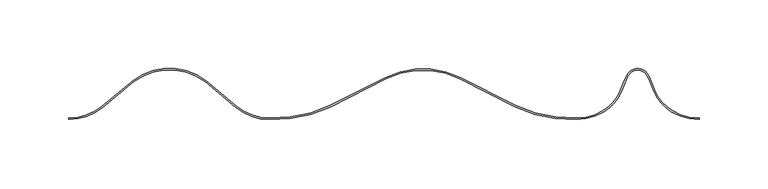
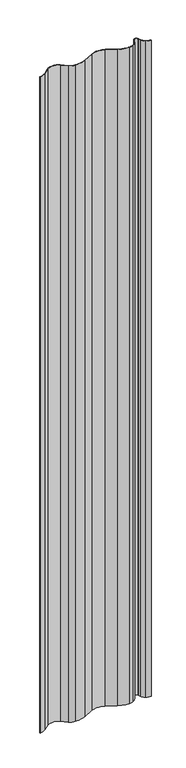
"""IFC4 building model written with IfcOpenShell, lengths in millimetres: plate geometry, Ritmica Vertical 457 : Ritmica Vertical 457."""

import ifcopenshell
import ifcopenshell.guid

model = None  # the IFC model being written
_history = None  # IfcOwnerHistory: only IFC2X3 demands one
_inside = {}  # id of a spatial element -> (the spatial element, [elements in it])
_under = {}  # id of a project, library or spatial element -> (it, [spatial elements below it])
_declared = {}  # id of a project -> (the project, [libraries it declares])
_typed = {}  # id of a type object -> (the type object, [elements of that type])
_made_of = {}  # id of a material, layer set ... -> (it, [elements and type objects made of it])


def new_model(schema):
    """Start an empty IFC model of exactly this schema.

    Asked for "IFC4X3", IfcOpenShell would pick the latest addendum, in which some entities
    have other attributes; the version numbers below select the first issue.
    IFC2X3 requires an IfcOwnerHistory on every rooted entity: one is made here for all.
    """
    global model, _history
    if schema == "IFC4X3":
        model = ifcopenshell.file(schema_version=(4, 3, 0, 0))
    else:
        model = ifcopenshell.file(schema=schema)
    _inside.clear()
    _under.clear()
    _declared.clear()
    _typed.clear()
    _made_of.clear()
    _history = None
    if model.schema == "IFC2X3":
        org = make("IfcOrganization", Name="unknown")
        user = make(
            "IfcPersonAndOrganization",
            ThePerson=make("IfcPerson", FamilyName="unknown"),
            TheOrganization=org,
        )
        app = make(
            "IfcApplication",
            ApplicationDeveloper=org,
            Version="unknown",
            ApplicationFullName="unknown",
            ApplicationIdentifier="unknown",
        )
        _history = make(
            "IfcOwnerHistory",
            OwningUser=user,
            OwningApplication=app,
            ChangeAction="ADDED",
            CreationDate=0,
        )
    return model


def make(cls, **values):
    """One entity of the class cls with the attributes given. An attribute that is None is left unset."""
    return model.create_entity(
        cls, **{name: value for name, value in values.items() if value is not None}
    )


def rooted(cls, **values):
    """An entity with a GlobalId (a new one), such as an element, a storey or a relation."""
    return make(cls, GlobalId=ifcopenshell.guid.new(), OwnerHistory=_history, **values)


def si_unit(unit_type, name, prefix=None):
    """IfcSIUnit, for example si_unit("LENGTHUNIT", "METRE", prefix="MILLI")."""
    return make("IfcSIUnit", UnitType=unit_type, Prefix=prefix, Name=name)


def assignment(units):
    """IfcUnitAssignment: the units of a project."""
    return None if units is None else make("IfcUnitAssignment", Units=units)


def point(xyz):
    """IfcCartesianPoint."""
    return None if xyz is None else make("IfcCartesianPoint", Coordinates=xyz)


def direction(xyz):
    """IfcDirection."""
    return None if xyz is None else make("IfcDirection", DirectionRatios=xyz)


def frame(location, z_axis=None, x_axis=None):
    """IfcAxis2Placement3D, a coordinate frame: its origin and axes. An axis left out is left unset."""
    return make(
        "IfcAxis2Placement3D",
        Location=point(location),
        Axis=direction(z_axis),
        RefDirection=direction(x_axis),
    )


def frame_2d(location, x_axis=None):
    """IfcAxis2Placement2D, a coordinate frame in the plane: its origin and x axis."""
    return make(
        "IfcAxis2Placement2D", Location=point(location), RefDirection=direction(x_axis)
    )


def origin():
    """The frame at (0, 0, 0) with its axes left unset."""
    return frame((0.0, 0.0, 0.0))


def origin_with_axes():
    """The frame at (0, 0, 0) with the z axis (0, 0, 1) and the x axis (1, 0, 0) written out."""
    return frame((0.0, 0.0, 0.0), z_axis=(0.0, 0.0, 1.0), x_axis=(1.0, 0.0, 0.0))


def place(relative_to, where):
    """IfcLocalPlacement: puts the frame where relative to a parent placement (None: the world)."""
    return make(
        "IfcLocalPlacement", PlacementRelTo=relative_to, RelativePlacement=where
    )


def context(
    kind, dimensions, precision=None, world=None, true_north=None, identifier=None
):
    """IfcGeometricRepresentationContext, for example the 3D "Model" context."""
    return make(
        "IfcGeometricRepresentationContext",
        ContextIdentifier=identifier,
        ContextType=kind,
        CoordinateSpaceDimension=dimensions,
        Precision=precision,
        WorldCoordinateSystem=world,
        TrueNorth=true_north,
    )


def project(units=None, contexts=None):
    """IfcProject with its units and contexts."""
    return rooted(
        "IfcProject",
        Name="project",
        RepresentationContexts=contexts,
        UnitsInContext=assignment(units),
    )


def spatial(cls, under=None, at=None, **own):
    """A site, building, storey or space (cls), placed at a placement, below another one or the project."""
    s = rooted(cls, ObjectPlacement=at, **own)
    if under is not None:
        _under.setdefault(under.id(), (under, []))[1].append(s)
    return s


def polyline(points):
    """IfcPolyline through the points."""
    return make("IfcPolyline", Points=[point(p) for p in points])


def circle_curve(where, radius):
    """IfcCircle in the frame where."""
    return make("IfcCircle", Position=where, Radius=radius)


def trimmed(basis, trim1, trim2, sense, master):
    """IfcTrimmedCurve: the piece of a basis curve between two trims."""
    return make(
        "IfcTrimmedCurve",
        BasisCurve=basis,
        Trim1=trim1,
        Trim2=trim2,
        SenseAgreement=sense,
        MasterRepresentation=master,
    )


def segment(curve, same_sense, transition):
    """IfcCompositeCurveSegment."""
    return make(
        "IfcCompositeCurveSegment",
        Transition=transition,
        SameSense=same_sense,
        ParentCurve=curve,
    )


def composite_curve(segments, self_intersect=None):
    """IfcCompositeCurve: segments joined end to end."""
    return make("IfcCompositeCurve", Segments=segments, SelfIntersect=self_intersect)


def outline(outer, holes=None, kind="AREA"):
    """IfcArbitraryClosedProfileDef: a profile drawn as a closed curve; with holes, ...WithVoids."""
    if holes is None:
        return make("IfcArbitraryClosedProfileDef", ProfileType=kind, OuterCurve=outer)
    return make(
        "IfcArbitraryProfileDefWithVoids",
        ProfileType=kind,
        OuterCurve=outer,
        InnerCurves=holes,
    )


def extrude(swept, where, along, depth):
    """IfcExtrudedAreaSolid: the profile swept, set in the frame where, extruded along a direction by depth."""
    return make(
        "IfcExtrudedAreaSolid",
        SweptArea=swept,
        Position=where,
        ExtrudedDirection=direction(along),
        Depth=depth,
    )


def shape(context_of_items, identifier, shape_type, items):
    """IfcShapeRepresentation: the items that make up one representation, for example the "Body"."""
    return make(
        "IfcShapeRepresentation",
        ContextOfItems=context_of_items,
        RepresentationIdentifier=identifier,
        RepresentationType=shape_type,
        Items=items,
    )


def source(mapping_origin, context_of_items, identifier, shape_type, items):
    """IfcRepresentationMap: a shape defined once, which mapped items show again and again."""
    return make(
        "IfcRepresentationMap",
        MappingOrigin=mapping_origin,
        MappedRepresentation=shape(context_of_items, identifier, shape_type, items),
    )


def transform(
    local_origin,
    x_axis=None,
    y_axis=None,
    z_axis=None,
    scale=None,
    scale2=None,
    scale3=None,
    uniform=True,
):
    """IfcCartesianTransformationOperator3D, or its non-uniform kind. x_axis, y_axis, z_axis: its Axis1, 2, 3."""
    if uniform:
        return make(
            "IfcCartesianTransformationOperator3D",
            Axis1=direction(x_axis),
            Axis2=direction(y_axis),
            LocalOrigin=point(local_origin),
            Scale=scale,
            Axis3=direction(z_axis),
        )
    return make(
        "IfcCartesianTransformationOperator3DnonUniform",
        Axis1=direction(x_axis),
        Axis2=direction(y_axis),
        LocalOrigin=point(local_origin),
        Scale=scale,
        Axis3=direction(z_axis),
        Scale2=scale2,
        Scale3=scale3,
    )


def mapped(mapping_source, mapping_target):
    """IfcMappedItem: shows the shape of a source again, moved by a transform."""
    return make(
        "IfcMappedItem", MappingSource=mapping_source, MappingTarget=mapping_target
    )


def made_of(thing, what):
    """Note that an element or type object is made of a material, layer set ...; save() writes the relation."""
    if what is not None:
        _made_of.setdefault(what.id(), (what, []))[1].append(thing)
    return thing


def element(
    cls,
    number,
    at=None,
    inside=None,
    cuts=None,
    type_object=None,
    material=None,
    context=None,
    identifier="Body",
    shape_type=None,
    held_by="IfcProductDefinitionShape",
    body=None,
    shapes=None,
    **own,
):
    """One element of the class cls, such as IfcWall. Its Tag is "e" and its number.

    at: its placement. inside: the storey or other place that contains it. cuts: it is an
    opening in that element (IfcRelVoidsElement). A single representation is given by context,
    identifier, shape_type and body (its items); several are given by shapes. held_by: the class
    of the entity that holds the representations. save() writes the other relations.
    """
    e = rooted(cls, Tag="e%d" % number, ObjectPlacement=at, **own)
    if body is not None:
        shapes = [shape(context, identifier, shape_type, body)]
    if shapes is not None:
        e.Representation = make(held_by, Representations=shapes)
    if inside is not None:
        _inside.setdefault(inside.id(), (inside, []))[1].append(e)
    if cuts is not None:
        rooted(
            "IfcRelVoidsElement", RelatingBuildingElement=cuts, RelatedOpeningElement=e
        )
    if type_object is not None:
        _typed.setdefault(type_object.id(), (type_object, []))[1].append(e)
    return made_of(e, material)


def aggregate(whole, parts):
    """IfcRelAggregates: a whole, such as a stair, and the parts it consists of."""
    return rooted("IfcRelAggregates", RelatingObject=whole, RelatedObjects=parts)


def save(model, path):
    """Write the relations noted so far, then the file.

    IfcRelAggregates (storeys below a building ...), IfcRelContainedInSpatialStructure (elements
    in a storey), IfcRelDefinesByType, IfcRelAssociatesMaterial and IfcRelDeclares: one each for
    every whole, place, type object, material and project.
    """
    for whole, parts in _under.values():
        aggregate(whole, parts)
    for where, things in _inside.values():
        rooted(
            "IfcRelContainedInSpatialStructure",
            RelatedElements=things,
            RelatingStructure=where,
        )
    for kind, things in _typed.values():
        rooted("IfcRelDefinesByType", RelatedObjects=things, RelatingType=kind)
    for what, things in _made_of.values():
        rooted("IfcRelAssociatesMaterial", RelatedObjects=things, RelatingMaterial=what)
    for by, libraries in _declared.values():
        rooted("IfcRelDeclares", RelatingContext=by, RelatedDefinitions=libraries)
    model.write(path)


def plate_763c75ff(model_context):
    return source(origin(), model_context, "Body", "SweptSolid", [
        extrude(outline(composite_curve([segment(trimmed(circle_curve(frame_2d((228.5020528, 38.4253754)), 37.4503244), [point((208.9595512, 6.4782718))], [point((228.5, 0.975051))], True, "CARTESIAN"), True, "CONTINUOUS"), segment(polyline([(228.5, 0.975051), (228.5, -0.024949)]), True, "CONTINUOUS"), segment(trimmed(circle_curve(frame_2d((228.5020528, 38.4253754)), 38.4503244), [point((228.5, -0.024949))], [point((208.4377265, 5.625219))], False, "CARTESIAN"), True, "CONTINUOUS"), segment(trimmed(circle_curve(frame_2d((224.9360879, 32.5959145)), 31.6166783), [point((208.4377265, 5.625219))], [point((195.5799601, 20.8557228))], False, "CARTESIAN"), True, "CONTINUOUS"), segment(polyline([(195.5799601, 20.8557228), (192.7111311, 28.0194056), (191.0649656, 31.4542051)]), True, "CONTINUOUS"), segment(trimmed(circle_curve(frame_2d((183.9757397, 28.0566157)), 7.8613445), [point((191.0649656, 31.4542051))], [point((176.8868864, 31.4549824))], True, "CARTESIAN"), True, "CONTINUOUS"), segment(polyline([(176.8868864, 31.4549824), (175.2403444, 28.0203634), (172.3707299, 20.8569952)]), True, "CONTINUOUS"), segment(trimmed(circle_curve(frame_2d((143.0158895, 32.6004057)), 31.6166783), [point((172.3707299, 20.8569952))], [point((159.5112935, 5.6279013))], False, "CARTESIAN"), True, "CONTINUOUS"), segment(trimmed(circle_curve(frame_2d((139.4505638, 38.4302575)), 38.4503244), [point((159.5112935, 5.6279013))], [point((139.4662216, -0.0200637))], False, "CARTESIAN"), True, "CONTINUOUS"), segment(trimmed(circle_curve(frame_2d((136.1527384, 94.2150762)), 94.293376), [point((139.4662216, -0.0200637))], [point((95.2592435, 9.2505963))], False, "CARTESIAN"), True, "CONTINUOUS"), segment(polyline([(95.2592435, 9.2505963), (54.7140986, 29.6386385)]), True, "CONTINUOUS"), segment(trimmed(circle_curve(frame_2d((28.2084709, -23.0723821)), 59.0), [point((54.7140986, 29.6386385))], [point((1.708623, 29.6415445))], True, "CARTESIAN"), True, "CONTINUOUS"), segment(polyline([(1.708623, 29.6415445), (-38.8387571, 9.257948)]), True, "CONTINUOUS"), segment(trimmed(circle_curve(frame_2d((-79.7229357, 94.2269112)), 94.293376), [point((-38.8387571, 9.257948))], [point((-83.0467525, -0.0078648))], False, "CARTESIAN"), True, "CONTINUOUS"), segment(trimmed(circle_curve(frame_2d((-83.0268952, 38.1235504)), 38.1314203), [point((-83.0467525, -0.0078648))], [point((-107.4358676, 8.8283753))], False, "CARTESIAN"), True, "CONTINUOUS"), segment(polyline([(-107.4358676, 8.8283753), (-129.8455139, 27.5002705)]), True, "CONTINUOUS"), segment(trimmed(circle_curve(frame_2d((-155.6564116, -7.0672243)), 43.1406321), [point((-129.8455139, 27.5002705))], [point((-181.4635189, 27.5031003))], True, "CARTESIAN"), True, "CONTINUOUS"), segment(polyline([(-181.4635189, 27.5031003), (-204.1775266, 8.833569)]), True, "CONTINUOUS"), segment(trimmed(circle_curve(frame_2d((-228.5832868, 38.1314203)), 38.1314203), [point((-204.1775266, 8.833569))], [point((-228.5853773, 0.0))], False, "CARTESIAN"), True, "CONTINUOUS"), segment(polyline([(-228.5853773, 0.0), (-228.5856864, 1.0)]), True, "CONTINUOUS"), segment(trimmed(circle_curve(frame_2d((-228.5832868, 38.1314203)), 37.1314203), [point((-228.5856864, 1.0))], [point((-204.8175699, 9.6019078))], True, "CARTESIAN"), True, "CONTINUOUS"), segment(polyline([(-204.8175699, 9.6019078), (-182.0832022, 28.2883996)]), True, "CONTINUOUS"), segment(trimmed(circle_curve(frame_2d((-155.6564116, -7.0672243)), 44.1406321), [point((-182.0832022, 28.2883996))], [point((-129.2257445, 28.2855017))], False, "CARTESIAN"), True, "CONTINUOUS"), segment(polyline([(-129.2257445, 28.2855017), (-106.7957401, 9.596644)]), True, "CONTINUOUS"), segment(trimmed(circle_curve(frame_2d((-83.0268952, 38.1235504)), 37.1314203), [point((-106.7957401, 9.596644))], [point((-83.0289309, 0.9921301))], True, "CARTESIAN"), True, "CONTINUOUS"), segment(trimmed(circle_curve(frame_2d((-79.7229357, 94.2269112)), 93.293376), [point((-83.0289309, 0.9921301))], [point((-39.2801371, 10.1553105))], True, "CARTESIAN"), True, "CONTINUOUS"), segment(polyline([(-39.2801371, 10.1553105), (1.2594731, 30.5350009)]), True, "CONTINUOUS"), segment(trimmed(circle_curve(frame_2d((28.2084709, -23.0723821)), 60.0), [point((1.2594731, 30.5350009))], [point((55.1633465, 30.5320457))], False, "CARTESIAN"), True, "CONTINUOUS"), segment(polyline([(55.1633465, 30.5320457), (95.7007218, 10.1479104)]), True, "CONTINUOUS"), segment(trimmed(circle_curve(frame_2d((136.1527384, 94.2150762)), 93.293376), [point((95.7007218, 10.1479104))], [point((139.4485107, 0.9799331))], True, "CARTESIAN"), True, "CONTINUOUS"), segment(trimmed(circle_curve(frame_2d((139.4505638, 38.4302575)), 37.4503244), [point((139.4485107, 0.9799331))], [point((158.9895624, 6.4810113))], True, "CARTESIAN"), True, "CONTINUOUS"), segment(trimmed(circle_curve(frame_2d((143.0158895, 32.6004057)), 30.6166783), [point((158.9895624, 6.4810113))], [point((171.4423559, 21.2286426))], True, "CARTESIAN"), True, "CONTINUOUS"), segment(polyline([(171.4423559, 21.2286426), (174.3243362, 28.4228795), (175.9851509, 31.8872706)]), True, "CONTINUOUS"), segment(trimmed(circle_curve(frame_2d((183.9757397, 28.0566157)), 8.8613445), [point((175.9851509, 31.8872706))], [point((191.9667485, 31.8863945))], False, "CARTESIAN"), True, "CONTINUOUS"), segment(polyline([(191.9667485, 31.8863945), (193.6271833, 28.4218212), (196.5083748, 21.2272684)]), True, "CONTINUOUS"), segment(trimmed(circle_curve(frame_2d((224.9360879, 32.5959145)), 30.6166783), [point((196.5083748, 21.2272684))], [point((208.9595512, 6.4782718))], True, "CARTESIAN"), True, "CONTINUOUS")], self_intersect=False)), origin_with_axes(), (0.0, 0.0, 1.0), 2859.2009216),
    ])


if __name__ == "__main__":
    model = new_model("IFC4")
    model_context = context("Model", 3, world=origin())
    ifc_project = project(units=[si_unit("LENGTHUNIT", "METRE", prefix="MILLI")], contexts=[model_context])
    site = spatial("IfcSite", under=ifc_project)
    building = spatial("IfcBuilding", under=site)
    placement = place(None, origin())
    plate_shape = plate_763c75ff(model_context)
    element("IfcPlate", 1, ObjectType="Ritmica Vertical 457 : Ritmica Vertical 457", at=placement, inside=building, context=model_context, shape_type="MappedRepresentation", body=[
        mapped(plate_shape, transform((0.0, 0.0, 0.0), x_axis=(1.0, 0.0, 0.0), y_axis=(0.0, 1.0, 0.0), z_axis=(0.0, 0.0, 1.0))),
    ])
    save(model, "model.ifc")
